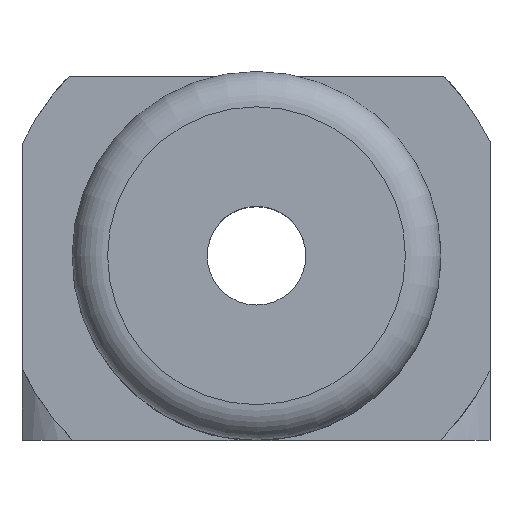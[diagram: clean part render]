
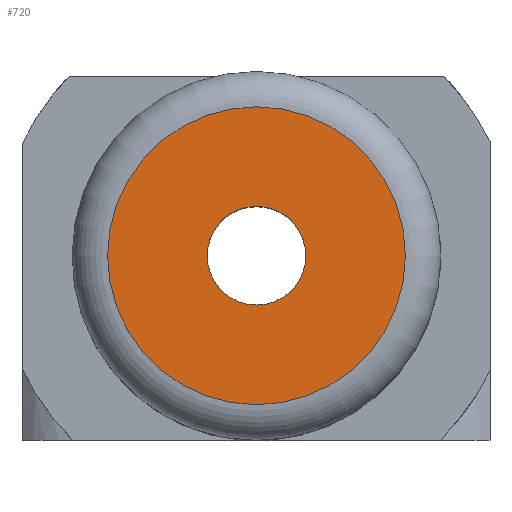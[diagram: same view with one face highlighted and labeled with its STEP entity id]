
A CAD part, top view. The second image highlights one B-rep face of the part: STEP entity #720.
In plain terms, the highlighted planar face has unit normal (0, 0, 1).
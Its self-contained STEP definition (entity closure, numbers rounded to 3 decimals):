
#176=FACE_BOUND('',#224,.T.);
#185=FACE_OUTER_BOUND('',#223,.T.);
#223=EDGE_LOOP('',(#488));
#224=EDGE_LOOP('',(#489));
#267=CIRCLE('',#774,6.3);
#270=CIRCLE('',#778,2.087);
#301=VERTEX_POINT('',#1050);
#303=VERTEX_POINT('',#1056);
#374=EDGE_CURVE('',#301,#301,#267,.T.);
#377=EDGE_CURVE('',#303,#303,#270,.T.);
#488=ORIENTED_EDGE('',*,*,#374,.F.);
#489=ORIENTED_EDGE('',*,*,#377,.T.);
#703=PLANE('',#777);
#720=ADVANCED_FACE('',(#185,#176),#703,.T.);
#774=AXIS2_PLACEMENT_3D('',#1051,#850,#851);
#777=AXIS2_PLACEMENT_3D('',#1055,#856,#857);
#778=AXIS2_PLACEMENT_3D('',#1057,#858,#859);
#850=DIRECTION('center_axis',(0.,0.,-1.));
#851=DIRECTION('ref_axis',(0.998,-0.063,0.));
#856=DIRECTION('center_axis',(0.,0.,1.));
#857=DIRECTION('ref_axis',(1.,0.,0.));
#858=DIRECTION('center_axis',(0.,0.,-1.));
#859=DIRECTION('ref_axis',(-1.,0.,0.));
#1050=CARTESIAN_POINT('',(-28.3,0.,17.));
#1051=CARTESIAN_POINT('Origin',(-22.,0.,17.));
#1055=CARTESIAN_POINT('Origin',(-22.003,0.,17.));
#1056=CARTESIAN_POINT('',(-19.913,0.,17.));
#1057=CARTESIAN_POINT('Origin',(-22.,0.,17.));
